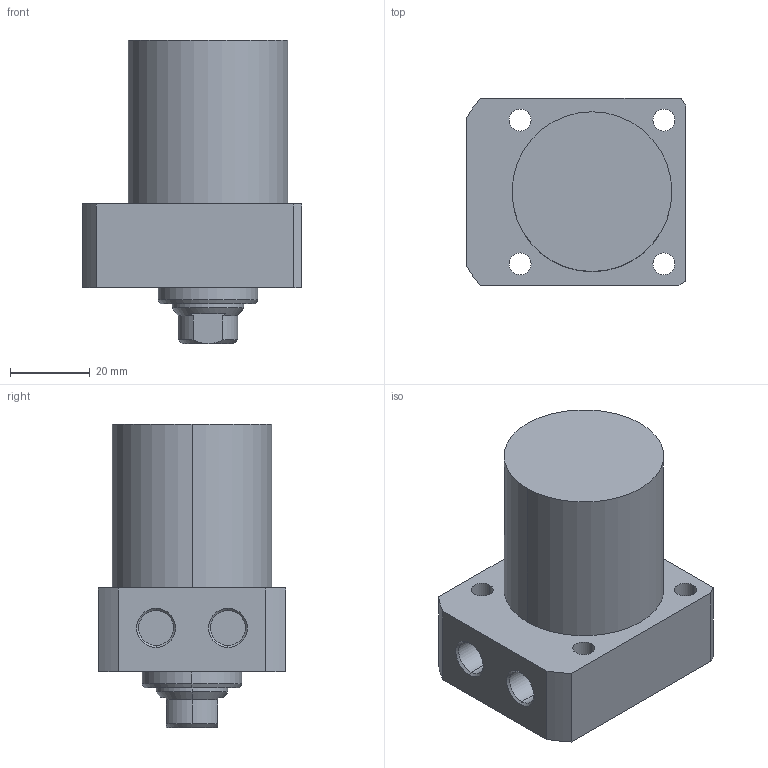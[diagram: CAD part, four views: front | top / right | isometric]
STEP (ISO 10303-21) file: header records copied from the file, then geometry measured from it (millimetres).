
FILE_DESCRIPTION (( 'STEP AP203' ), '1' );
FILE_NAME ('CLL-R040-CA-030.STEP', '2017-05-10T11:48:59', ( '' ), ( '' ), 'SwSTEP 2.0', 'SolidWorks 2015', '' );
FILE_SCHEMA (( 'CONFIG_CONTROL_DESIGN' ));
Length unit declared in the file: millimetre
Products named in the file (1): CLL-R040-CA-030
Bounding box: 55 x 47 x 76 mm (x, y, z)
Volume: 104586.5 mm3; surface area: 17616.2 mm2
Topology: 1 solids, 1 shells, 63 faces, 147 edges, 92 vertices
Faces by surface type: cylinder 29, plane 19, cone 15
Entity records: 1913 total; most frequent: DIRECTION 338, CARTESIAN_POINT 337, ORIENTED_EDGE 290, EDGE_CURVE 145, AXIS2_PLACEMENT_3D 137, VERTEX_POINT 92, EDGE_LOOP 79, CIRCLE 73
